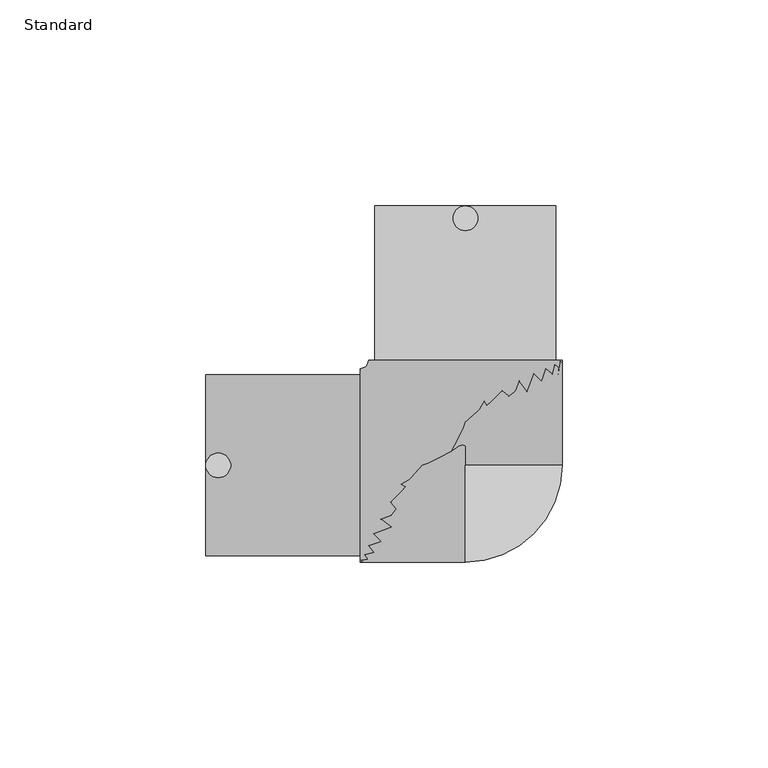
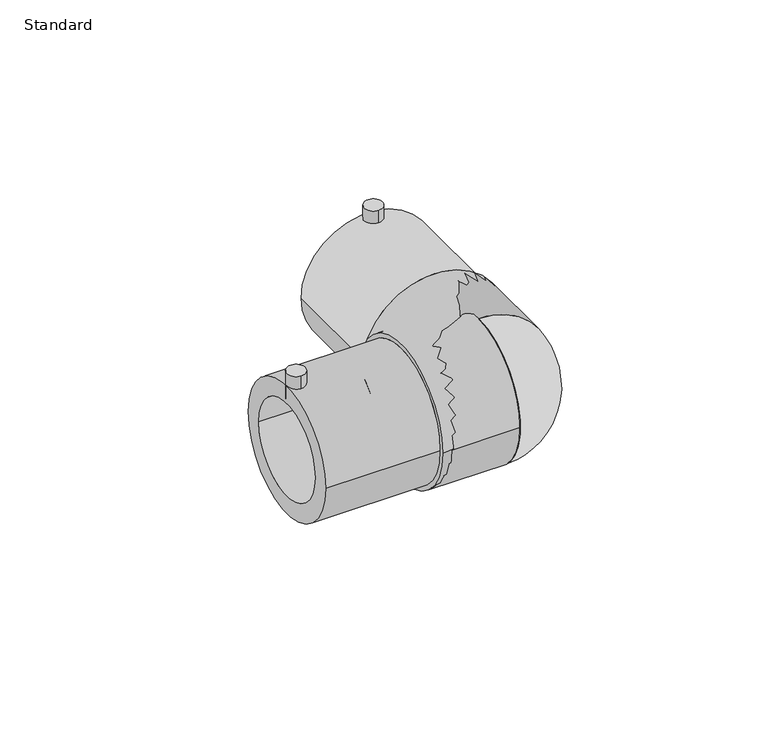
"""IFC4 building model written with IfcOpenShell, lengths in millimetres: pipe fitting geometry, EGB_VASEN_ PPR_Codo electrosoldable 90 WXRD200_Codo electrosoldable 45 WXRD220 : Standard."""

from ifc_helpers import new_model, si_unit, point, frame, frame_2d, origin, origin_2d, place, context, project, spatial, polyline, circle_curve, ellipse_curve, trimmed, segment, composite_curve, outline, extrude, source, transform, mapped, element, save
from ifc_brep_helpers import plane_surface, cylinder_surface, revolved_surface, advanced_brep


def standard_c65cb55c(model_context):
    return source(origin(), model_context, "Body", "SolidModel", [
        advanced_brep(
        [(0.0, 0.0, -23.5), (0.0, 0.0, 23.5)],
        [
            (0, 1, circle_curve(frame((0.0, 0.0, 0.0), z_axis=(-1.0, 0.0, 0.0), x_axis=(0.0, 1.0, 0.0)), 23.5)),
            (1, 0),
            (1, 0, circle_curve(frame((0.0, 0.0, 0.0), z_axis=(0.0, 1.0, 0.0), x_axis=(-1.0, 0.0, 0.0)), 23.5)),
        ],
        [
            plane_surface(frame((0.0, 0.0, 33.5431585), z_axis=(-1.0, 0.0, 0.0), x_axis=(0.0, -1.0, 0.0))),
            plane_surface(frame((0.0, 0.0, 33.5431585), z_axis=(0.0, 1.0, 0.0), x_axis=(1.0, 0.0, 0.0))),
            revolved_surface(trimmed(ellipse_curve(frame((0.0, 0.0, 0.0), z_axis=(1.0, 0.0, 0.0), x_axis=(0.0, 1.0, 0.0)), 23.5, 23.5), [point((0.0, 0.0, 23.5))], [point((0.0, 0.0, -23.5))], True, "CARTESIAN"), (0.0, 0.0, 33.5431585), (0.0, 0.0, -1.0)),
        ],
        [
            (0, [[1, 2]]),
            (1, [[3, -2]]),
            (2, [[-1, -3]]),
        ],
    ),
        advanced_brep(
        [(-63.0, -22.0, 0.0), (-63.0, 22.0, 0.0), (-63.0, -16.0, 0.0), (-63.0, 16.0, 0.0), (-25.5, -22.0, 0.0), (-25.5, 22.0, 0.0), (-25.5, -16.0, 0.0), (-25.5, 16.0, 0.0), (-25.5, -23.5, 0.0), (-25.5, 23.5, 0.0), (23.5, 25.5, 0.0), (-23.5, 25.5, 0.0), (22.0, 25.5, 0.0), (-22.0, 25.5, 0.0), (16.0, 25.5, 0.0), (-16.0, 25.5, 0.0), (22.0, 63.0, 0.0), (-22.0, 63.0, 0.0), (16.0, 63.0, 0.0), (-16.0, 63.0, 0.0)],
        [
            (0, 1, circle_curve(frame((-63.0, 0.0, 0.0), z_axis=(-1.0, 0.0, 0.0), x_axis=(0.0, 1.0, 0.0)), 22.0)),
            (1, 0, circle_curve(frame((-63.0, 0.0, 0.0), z_axis=(-1.0, 0.0, 0.0), x_axis=(0.0, 1.0, 0.0)), 22.0)),
            (2, 3, circle_curve(frame((-63.0, 0.0, 0.0), z_axis=(1.0, 0.0, 0.0), x_axis=(0.0, 1.0, 0.0)), 16.0)),
            (3, 2, circle_curve(frame((-63.0, 0.0, 0.0), z_axis=(1.0, 0.0, 0.0), x_axis=(0.0, 1.0, 0.0)), 16.0)),
            (0, 4),
            (4, 5, circle_curve(frame((-25.5, 0.0, 0.0), z_axis=(-1.0, 0.0, 0.0), x_axis=(0.0, 1.0, 0.0)), 22.0)),
            (5, 1),
            (5, 4, circle_curve(frame((-25.5, 0.0, 0.0), z_axis=(-1.0, 0.0, 0.0), x_axis=(0.0, 1.0, 0.0)), 22.0)),
            (2, 6),
            (6, 7, circle_curve(frame((-25.5, 0.0, 0.0), z_axis=(1.0, 0.0, 0.0), x_axis=(0.0, 1.0, 0.0)), 16.0)),
            (7, 3),
            (7, 6, circle_curve(frame((-25.5, 0.0, 0.0), z_axis=(1.0, 0.0, 0.0), x_axis=(0.0, 1.0, 0.0)), 16.0)),
            (8, 9, circle_curve(frame((-25.5, 0.0, 0.0), z_axis=(-1.0, 0.0, 0.0), x_axis=(0.0, 1.0, 0.0)), 23.5)),
            (9, 8, circle_curve(frame((-25.5, 0.0, 0.0), z_axis=(-1.0, 0.0, 0.0), x_axis=(0.0, 1.0, 0.0)), 23.5)),
            (10, 11, circle_curve(frame((0.0, 25.5, 0.0), z_axis=(0.0, 1.0, 0.0), x_axis=(-1.0, 0.0, 0.0)), 23.5)),
            (11, 10, circle_curve(frame((0.0, 25.5, 0.0), z_axis=(0.0, 1.0, 0.0), x_axis=(-1.0, 0.0, 0.0)), 23.5)),
            (12, 13, circle_curve(frame((0.0, 25.5, 0.0), z_axis=(0.0, -1.0, 0.0), x_axis=(-1.0, 0.0, 0.0)), 22.0)),
            (13, 12, circle_curve(frame((0.0, 25.5, 0.0), z_axis=(0.0, -1.0, 0.0), x_axis=(-1.0, 0.0, 0.0)), 22.0)),
            (14, 15, circle_curve(frame((0.0, 25.5, 0.0), z_axis=(0.0, 1.0, 0.0), x_axis=(-1.0, 0.0, 0.0)), 16.0)),
            (15, 14, circle_curve(frame((0.0, 25.5, 0.0), z_axis=(0.0, 1.0, 0.0), x_axis=(-1.0, 0.0, 0.0)), 16.0)),
            (8, 10, circle_curve(frame((-25.5, 25.5, 0.0), z_axis=(0.0, 0.0, 1.0), x_axis=(0.0, -1.0, 0.0)), 49.0)),
            (11, 9, circle_curve(frame((-25.5, 25.5, 0.0), z_axis=(0.0, 0.0, -1.0), x_axis=(0.0, -1.0, 0.0)), 2.0)),
            (16, 17, circle_curve(frame((0.0, 63.0, 0.0), z_axis=(0.0, 1.0, 0.0), x_axis=(-1.0, 0.0, 0.0)), 22.0)),
            (17, 16, circle_curve(frame((0.0, 63.0, 0.0), z_axis=(0.0, 1.0, 0.0), x_axis=(-1.0, 0.0, 0.0)), 22.0)),
            (18, 19, circle_curve(frame((0.0, 63.0, 0.0), z_axis=(0.0, -1.0, 0.0), x_axis=(-1.0, 0.0, 0.0)), 16.0)),
            (19, 18, circle_curve(frame((0.0, 63.0, 0.0), z_axis=(0.0, -1.0, 0.0), x_axis=(-1.0, 0.0, 0.0)), 16.0)),
            (17, 13),
            (12, 16),
            (19, 15),
            (14, 18),
        ],
        [
            plane_surface(frame((-63.0, 0.0, 0.0), z_axis=(-1.0, 0.0, 0.0), x_axis=(0.0, 0.0, 1.0))),
            cylinder_surface(frame((-63.0, 0.0, 0.0), z_axis=(-1.0, 0.0, 0.0), x_axis=(0.0, 1.0, 0.0)), 22.0),
            revolved_surface(polyline([(-25.5, 16.0, 0.0), (-63.0, 16.0, 0.0)]), (-63.0, 0.0, 0.0), (1.0, 0.0, 0.0)),
            plane_surface(frame((-25.5, 0.0, 0.0), z_axis=(-1.0, 0.0, 0.0), x_axis=(0.0, 0.0, 1.0))),
            plane_surface(frame((0.0, 25.5, 0.0), z_axis=(0.0, 1.0, 0.0), x_axis=(0.0, 0.0, 1.0))),
            revolved_surface(trimmed(ellipse_curve(frame((-25.5, 0.0, 0.0), z_axis=(-1.0, 0.0, 0.0), x_axis=(0.0, 1.0, 0.0)), 23.5, 23.5), [point((-25.5, -23.5, 0.0))], [point((-25.5, 23.5, 0.0))], True, "CARTESIAN"), (-25.5, 25.5, 0.0), (0.0, 0.0, 1.0)),
            revolved_surface(trimmed(ellipse_curve(frame((-25.5, 0.0, 0.0), z_axis=(-1.0, 0.0, 0.0), x_axis=(0.0, 1.0, 0.0)), 23.5, 23.5), [point((-25.5, 23.5, 0.0))], [point((-25.5, -23.5, 0.0))], True, "CARTESIAN"), (-25.5, 25.5, 0.0), (0.0, 0.0, 1.0)),
            plane_surface(frame((0.0, 63.0, 0.0), z_axis=(0.0, 1.0, 0.0), x_axis=(0.0, 0.0, 1.0))),
            cylinder_surface(frame((0.0, 25.5, 0.0), z_axis=(0.0, -1.0, 0.0), x_axis=(-1.0, 0.0, 0.0)), 22.0),
            revolved_surface(polyline([(-16.0, 63.0, 0.0), (-16.0, 25.5, 0.0)]), (0.0, 25.5, 0.0), (0.0, 1.0, 0.0)),
        ],
        [
            (0, [[1, 2], [3, 4]]),
            (1, [[-1, 5, 6, 7]]),
            (1, [[-2, -7, 8, -5]]),
            (2, [[-3, 9, 10, 11]]),
            (2, [[-4, -11, 12, -9]]),
            (3, [[-10, -12]]),
            (3, [[13, 14], [-6, -8]]),
            (4, [[15, 16], [17, 18]]),
            (4, [[19, 20]]),
            (5, [[-13, 21, -16, 22]]),
            (6, [[-14, -22, -15, -21]]),
            (7, [[23, 24], [25, 26]]),
            (8, [[-24, 27, -17, 28]]),
            (8, [[-23, -28, -18, -27]]),
            (9, [[-26, 29, -19, 30]]),
            (9, [[-25, -30, -20, -29]]),
        ],
    ),
        extrude(outline(composite_curve([segment(trimmed(circle_curve(frame_2d((0.0, 60.0)), 3.0), [point((0.0, 57.0))], [point((0.0, 63.0))], False, "CARTESIAN"), True, "CONTINUOUS"), segment(trimmed(circle_curve(frame_2d((0.0, 60.0)), 3.0), [point((0.0, 63.0))], [point((0.0, 57.0))], False, "CARTESIAN"), True, "CONTINUOUS")], self_intersect=False)), frame((0.0, 0.0, 17.0), z_axis=(0.0, 0.0, 1.0), x_axis=(1.0, 0.0, 0.0)), (0.0, 0.0, 1.0), 9.5),
        extrude(outline(composite_curve([segment(trimmed(circle_curve(frame_2d((-60.0, 0.0)), 3.0), [point((-60.0, -3.0))], [point((-60.0, 3.0))], False, "CARTESIAN"), True, "CONTINUOUS"), segment(trimmed(circle_curve(frame_2d((-60.0, 0.0)), 3.0), [point((-60.0, 3.0))], [point((-60.0, -3.0))], False, "CARTESIAN"), True, "CONTINUOUS")], self_intersect=False)), frame((0.0, 0.0, 17.0), z_axis=(0.0, 0.0, 1.0), x_axis=(1.0, 0.0, 0.0)), (0.0, 0.0, 1.0), 9.5),
        extrude(outline(composite_curve([segment(trimmed(circle_curve(origin_2d(), 23.5), [point((-23.5, 0.0))], [point((23.5, 0.0))], False, "CARTESIAN"), True, "CONTINUOUS"), segment(trimmed(circle_curve(origin_2d(), 23.5), [point((23.5, 0.0))], [point((-23.5, 0.0))], False, "CARTESIAN"), True, "CONTINUOUS")], self_intersect=False)), frame((-25.5, 0.0, 0.0), z_axis=(1.0, 0.0, 0.0), x_axis=(0.0, 1.0, 0.0)), (0.0, 0.0, 1.0), 25.5),
        extrude(outline(composite_curve([segment(trimmed(circle_curve(origin_2d(), 23.5), [point((0.0, -23.5))], [point((0.0, 23.5))], False, "CARTESIAN"), True, "CONTINUOUS"), segment(trimmed(circle_curve(origin_2d(), 23.5), [point((0.0, 23.5))], [point((0.0, -23.5))], False, "CARTESIAN"), True, "CONTINUOUS")], self_intersect=False)), frame((0.0, 0.0, 0.0), z_axis=(0.0, 1.0, 0.0), x_axis=(0.0, 0.0, 1.0)), (0.0, 0.0, 1.0), 25.5),
    ])


if __name__ == "__main__":
    model = new_model("IFC4")
    model_context = context("Model", 3, world=origin())
    ifc_project = project(units=[si_unit("LENGTHUNIT", "METRE", prefix="MILLI")], contexts=[model_context])
    site = spatial("IfcSite", under=ifc_project)
    building = spatial("IfcBuilding", under=site)
    placement = place(None, origin())
    standard_shape = standard_c65cb55c(model_context)
    element("IfcPipeFitting", 1, ObjectType="EGB_VASEN_ PPR_Codo electrosoldable 90 WXRD200_Codo electrosoldable 45 WXRD220 : Standard", at=placement, inside=building, context=model_context, shape_type="MappedRepresentation", body=[
        mapped(standard_shape, transform((0.0, 0.0, 0.0), x_axis=(1.0, 0.0, 0.0), y_axis=(0.0, 1.0, 0.0), z_axis=(0.0, 0.0, 1.0))),
    ])
    save(model, "model.ifc")
